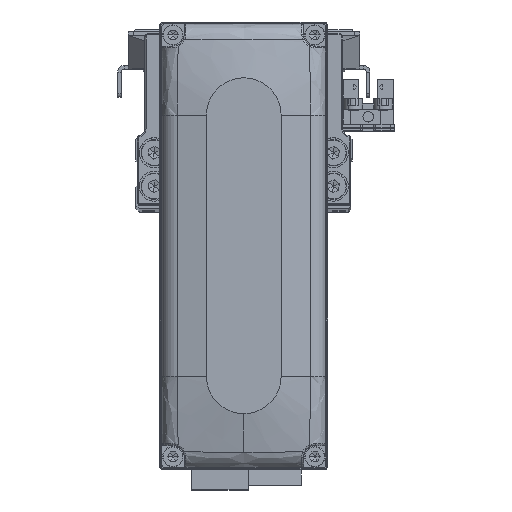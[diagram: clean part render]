
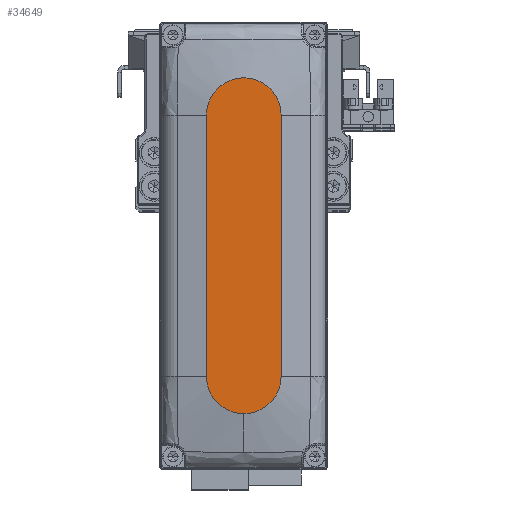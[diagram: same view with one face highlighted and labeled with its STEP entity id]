
A CAD part, top view. The second image highlights one B-rep face of the part: STEP entity #34649.
In plain terms, the highlighted planar face has unit normal (0, 0, 1).
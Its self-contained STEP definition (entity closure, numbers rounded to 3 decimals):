
#1182 = DIRECTION ( 'NONE',  ( 0., 0., 1. ) ) ;
#2771 = VECTOR ( 'NONE', #16976, 1000. ) ;
#3798 = CARTESIAN_POINT ( 'NONE',  ( -35., -10., 28. ) ) ;
#4185 = EDGE_CURVE ( 'NONE', #19914, #22667, #26000, .T. ) ;
#5322 = DIRECTION ( 'NONE',  ( 1., 0., 0. ) ) ;
#6056 = EDGE_CURVE ( 'NONE', #20778, #19914, #27631, .T. ) ;
#6097 = DIRECTION ( 'NONE',  ( 1., 0., 0. ) ) ;
#6680 = VERTEX_POINT ( 'NONE', #18877 ) ;
#7341 = AXIS2_PLACEMENT_3D ( 'NONE', #30835, #1182, #14351 ) ;
#8193 = ORIENTED_EDGE ( 'NONE', *, *, #10463, .T. ) ;
#8502 = EDGE_CURVE ( 'NONE', #6680, #20778, #8853, .T. ) ;
#8546 = PLANE ( 'NONE',  #18900 ) ;
#8853 = CIRCLE ( 'NONE', #33067, 10. ) ;
#9483 = EDGE_LOOP ( 'NONE', ( #41812, #38852, #8193, #35411, #35887 ) ) ;
#10463 = EDGE_CURVE ( 'NONE', #22667, #27072, #33450, .T. ) ;
#11169 = DIRECTION ( 'NONE',  ( -1., 0., 0. ) ) ;
#14351 = DIRECTION ( 'NONE',  ( 1., 0., 0. ) ) ;
#14418 = CARTESIAN_POINT ( 'NONE',  ( 35., 0., 28. ) ) ;
#15349 = EDGE_CURVE ( 'NONE', #27072, #6680, #30670, .T. ) ;
#16976 = DIRECTION ( 'NONE',  ( 1., 0., 0. ) ) ;
#17505 = AXIS2_PLACEMENT_3D ( 'NONE', #14418, #27637, #40846 ) ;
#18877 = CARTESIAN_POINT ( 'NONE',  ( 45., 0., 28. ) ) ;
#18900 = AXIS2_PLACEMENT_3D ( 'NONE', #21735, #34991, #5322 ) ;
#19914 = VERTEX_POINT ( 'NONE', #37258 ) ;
#20778 = VERTEX_POINT ( 'NONE', #37570 ) ;
#21735 = CARTESIAN_POINT ( 'NONE',  ( 0., 0., 28. ) ) ;
#22522 = CARTESIAN_POINT ( 'NONE',  ( 35., 0., 28. ) ) ;
#22667 = VERTEX_POINT ( 'NONE', #41043 ) ;
#26000 = CIRCLE ( 'NONE', #7341, 10. ) ;
#27072 = VERTEX_POINT ( 'NONE', #37828 ) ;
#27631 = LINE ( 'NONE', #40841, #29608 ) ;
#27637 = DIRECTION ( 'NONE',  ( 0., 0., 1. ) ) ;
#29608 = VECTOR ( 'NONE', #11169, 1000. ) ;
#30670 = CIRCLE ( 'NONE', #17505, 10. ) ;
#30835 = CARTESIAN_POINT ( 'NONE',  ( -35., 0., 28. ) ) ;
#33067 = AXIS2_PLACEMENT_3D ( 'NONE', #22522, #35781, #6097 ) ;
#33450 = LINE ( 'NONE', #3798, #2771 ) ;
#34649 = ADVANCED_FACE ( 'NONE', ( #38229 ), #8546, .T. ) ;
#34991 = DIRECTION ( 'NONE',  ( 0., 0., 1. ) ) ;
#35411 = ORIENTED_EDGE ( 'NONE', *, *, #15349, .T. ) ;
#35781 = DIRECTION ( 'NONE',  ( 0., 0., 1. ) ) ;
#35887 = ORIENTED_EDGE ( 'NONE', *, *, #8502, .T. ) ;
#37258 = CARTESIAN_POINT ( 'NONE',  ( -35., 10., 28. ) ) ;
#37570 = CARTESIAN_POINT ( 'NONE',  ( 35., 10., 28. ) ) ;
#37828 = CARTESIAN_POINT ( 'NONE',  ( 35., -10., 28. ) ) ;
#38229 = FACE_OUTER_BOUND ( 'NONE', #9483, .T. ) ;
#38852 = ORIENTED_EDGE ( 'NONE', *, *, #4185, .T. ) ;
#40841 = CARTESIAN_POINT ( 'NONE',  ( -35., 10., 28. ) ) ;
#40846 = DIRECTION ( 'NONE',  ( 1., 0., 0. ) ) ;
#41043 = CARTESIAN_POINT ( 'NONE',  ( -35., -10., 28. ) ) ;
#41812 = ORIENTED_EDGE ( 'NONE', *, *, #6056, .T. ) ;
